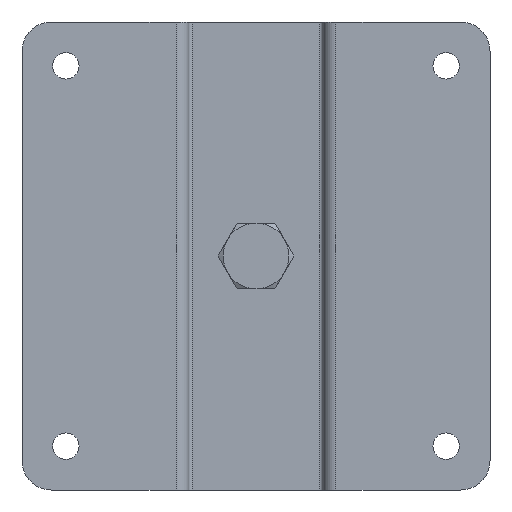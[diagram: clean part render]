
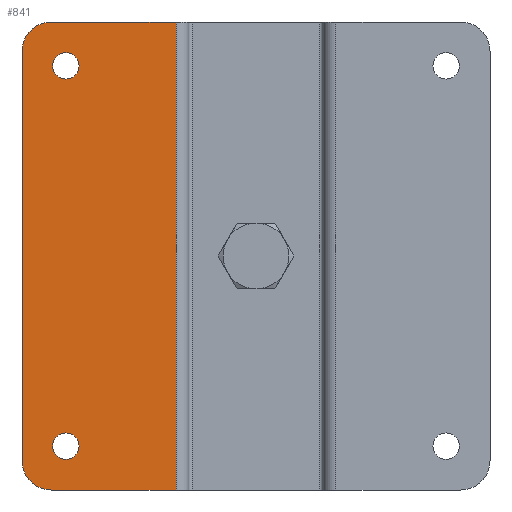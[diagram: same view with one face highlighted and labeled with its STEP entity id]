
A CAD part, front view. The second image highlights one B-rep face of the part: STEP entity #841.
In plain terms, the highlighted planar face has unit normal (0, -1, 0).
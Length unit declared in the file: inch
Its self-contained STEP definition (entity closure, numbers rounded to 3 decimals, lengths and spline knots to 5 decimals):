
#118 = DIRECTION ( 'NONE',  ( 0., 0., -1. ) ) ;
#186 = DIRECTION ( 'NONE',  ( 0., 0., -1. ) ) ;
#196 = EDGE_CURVE ( 'NONE', #4898, #2904, #979, .T. ) ;
#209 = LINE ( 'NONE', #2657, #5144 ) ;
#260 = DIRECTION ( 'NONE',  ( 0., 0., 1. ) ) ;
#471 = EDGE_CURVE ( 'NONE', #5022, #2704, #743, .T. ) ;
#511 = CARTESIAN_POINT ( 'NONE',  ( -0.682, 0., 4. ) ) ;
#557 = CARTESIAN_POINT ( 'NONE',  ( -1.75, 0., 0. ) ) ;
#743 = CIRCLE ( 'NONE', #4318, 0.1125 ) ;
#749 = EDGE_CURVE ( 'NONE', #2189, #2111, #209, .T. ) ;
#832 = EDGE_CURVE ( 'NONE', #4698, #5985, #2343, .T. ) ;
#841 = ADVANCED_FACE ( 'NONE', ( #4829, #6131, #3496 ), #3073, .T. ) ;
#979 = LINE ( 'NONE', #511, #1960 ) ;
#1020 = LINE ( 'NONE', #3395, #2847 ) ;
#1098 = DIRECTION ( 'NONE',  ( 0., 0., 1. ) ) ;
#1111 = EDGE_LOOP ( 'NONE', ( #3253, #5562 ) ) ;
#1265 = CARTESIAN_POINT ( 'NONE',  ( -1.75, 0., 4. ) ) ;
#1362 = DIRECTION ( 'NONE',  ( 0., 0., 1. ) ) ;
#1632 = CIRCLE ( 'NONE', #1833, 0.1125 ) ;
#1657 = EDGE_CURVE ( 'NONE', #2883, #2189, #3110, .T. ) ;
#1758 = ORIENTED_EDGE ( 'NONE', *, *, #196, .F. ) ;
#1833 = AXIS2_PLACEMENT_3D ( 'NONE', #2005, #5477, #2499 ) ;
#1855 = CARTESIAN_POINT ( 'NONE',  ( -1.625, 0., 0.375 ) ) ;
#1960 = VECTOR ( 'NONE', #2940, 39.37008 ) ;
#2005 = CARTESIAN_POINT ( 'NONE',  ( -1.625, 0., 0.375 ) ) ;
#2059 = CARTESIAN_POINT ( 'NONE',  ( -2., 0., 0.25 ) ) ;
#2063 = CARTESIAN_POINT ( 'NONE',  ( -0.682, 0., 4. ) ) ;
#2111 = VERTEX_POINT ( 'NONE', #2059 ) ;
#2189 = VERTEX_POINT ( 'NONE', #5140 ) ;
#2343 = CIRCLE ( 'NONE', #4585, 0.1125 ) ;
#2434 = EDGE_LOOP ( 'NONE', ( #5925, #5234 ) ) ;
#2499 = DIRECTION ( 'NONE',  ( 0., 0., 1. ) ) ;
#2519 = CARTESIAN_POINT ( 'NONE',  ( -1.75, 0., 0.25 ) ) ;
#2579 = EDGE_CURVE ( 'NONE', #2704, #5022, #1632, .T. ) ;
#2654 = AXIS2_PLACEMENT_3D ( 'NONE', #3146, #3634, #5033 ) ;
#2657 = CARTESIAN_POINT ( 'NONE',  ( -2., 0., 4. ) ) ;
#2704 = VERTEX_POINT ( 'NONE', #5564 ) ;
#2847 = VECTOR ( 'NONE', #6368, 39.37008 ) ;
#2883 = VERTEX_POINT ( 'NONE', #1265 ) ;
#2904 = VERTEX_POINT ( 'NONE', #5253 ) ;
#2940 = DIRECTION ( 'NONE',  ( 0., 0., -1. ) ) ;
#3009 = DIRECTION ( 'NONE',  ( 0., 0., -1. ) ) ;
#3061 = ORIENTED_EDGE ( 'NONE', *, *, #5712, .T. ) ;
#3073 = PLANE ( 'NONE',  #3291 ) ;
#3110 = CIRCLE ( 'NONE', #2654, 0.25 ) ;
#3146 = CARTESIAN_POINT ( 'NONE',  ( -1.75, 0., 3.75 ) ) ;
#3164 = VERTEX_POINT ( 'NONE', #557 ) ;
#3179 = EDGE_CURVE ( 'NONE', #2111, #3164, #6105, .T. ) ;
#3190 = DIRECTION ( 'NONE',  ( 0., 1., 0. ) ) ;
#3253 = ORIENTED_EDGE ( 'NONE', *, *, #471, .T. ) ;
#3291 = AXIS2_PLACEMENT_3D ( 'NONE', #4573, #3541, #118 ) ;
#3395 = CARTESIAN_POINT ( 'NONE',  ( -2., 0., 0. ) ) ;
#3496 = FACE_OUTER_BOUND ( 'NONE', #5830, .T. ) ;
#3497 = ORIENTED_EDGE ( 'NONE', *, *, #4723, .F. ) ;
#3541 = DIRECTION ( 'NONE',  ( 0., -1., 0. ) ) ;
#3634 = DIRECTION ( 'NONE',  ( 0., -1., 0. ) ) ;
#4005 = LINE ( 'NONE', #5680, #4162 ) ;
#4162 = VECTOR ( 'NONE', #4689, 39.37008 ) ;
#4318 = AXIS2_PLACEMENT_3D ( 'NONE', #1855, #4832, #1362 ) ;
#4332 = AXIS2_PLACEMENT_3D ( 'NONE', #6151, #3190, #260 ) ;
#4447 = CARTESIAN_POINT ( 'NONE',  ( -1.625, 0., 3.7375 ) ) ;
#4548 = DIRECTION ( 'NONE',  ( 0., 1., 0. ) ) ;
#4573 = CARTESIAN_POINT ( 'NONE',  ( -2., 0., 4. ) ) ;
#4585 = AXIS2_PLACEMENT_3D ( 'NONE', #5063, #4548, #1098 ) ;
#4689 = DIRECTION ( 'NONE',  ( -1., 0., 0. ) ) ;
#4698 = VERTEX_POINT ( 'NONE', #5849 ) ;
#4723 = EDGE_CURVE ( 'NONE', #2904, #3164, #1020, .T. ) ;
#4829 = FACE_BOUND ( 'NONE', #2434, .T. ) ;
#4832 = DIRECTION ( 'NONE',  ( 0., 1., 0. ) ) ;
#4898 = VERTEX_POINT ( 'NONE', #2063 ) ;
#5022 = VERTEX_POINT ( 'NONE', #5126 ) ;
#5033 = DIRECTION ( 'NONE',  ( 0., 0., -1. ) ) ;
#5037 = ORIENTED_EDGE ( 'NONE', *, *, #749, .T. ) ;
#5063 = CARTESIAN_POINT ( 'NONE',  ( -1.625, 0., 3.625 ) ) ;
#5126 = CARTESIAN_POINT ( 'NONE',  ( -1.625, 0., 0.4875 ) ) ;
#5140 = CARTESIAN_POINT ( 'NONE',  ( -2., 0., 3.75 ) ) ;
#5144 = VECTOR ( 'NONE', #186, 39.37008 ) ;
#5234 = ORIENTED_EDGE ( 'NONE', *, *, #832, .T. ) ;
#5253 = CARTESIAN_POINT ( 'NONE',  ( -0.682, 0., 0. ) ) ;
#5369 = ORIENTED_EDGE ( 'NONE', *, *, #1657, .T. ) ;
#5477 = DIRECTION ( 'NONE',  ( 0., 1., 0. ) ) ;
#5490 = CIRCLE ( 'NONE', #4332, 0.1125 ) ;
#5562 = ORIENTED_EDGE ( 'NONE', *, *, #2579, .T. ) ;
#5564 = CARTESIAN_POINT ( 'NONE',  ( -1.625, 0., 0.2625 ) ) ;
#5668 = EDGE_CURVE ( 'NONE', #5985, #4698, #5490, .T. ) ;
#5680 = CARTESIAN_POINT ( 'NONE',  ( -2., 0., 4. ) ) ;
#5712 = EDGE_CURVE ( 'NONE', #4898, #2883, #4005, .T. ) ;
#5830 = EDGE_LOOP ( 'NONE', ( #3061, #5369, #5037, #6324, #3497, #1758 ) ) ;
#5849 = CARTESIAN_POINT ( 'NONE',  ( -1.625, 0., 3.5125 ) ) ;
#5895 = AXIS2_PLACEMENT_3D ( 'NONE', #2519, #5975, #3009 ) ;
#5925 = ORIENTED_EDGE ( 'NONE', *, *, #5668, .T. ) ;
#5975 = DIRECTION ( 'NONE',  ( 0., -1., 0. ) ) ;
#5985 = VERTEX_POINT ( 'NONE', #4447 ) ;
#6105 = CIRCLE ( 'NONE', #5895, 0.25 ) ;
#6131 = FACE_BOUND ( 'NONE', #1111, .T. ) ;
#6151 = CARTESIAN_POINT ( 'NONE',  ( -1.625, 0., 3.625 ) ) ;
#6324 = ORIENTED_EDGE ( 'NONE', *, *, #3179, .T. ) ;
#6368 = DIRECTION ( 'NONE',  ( -1., 0., 0. ) ) ;
